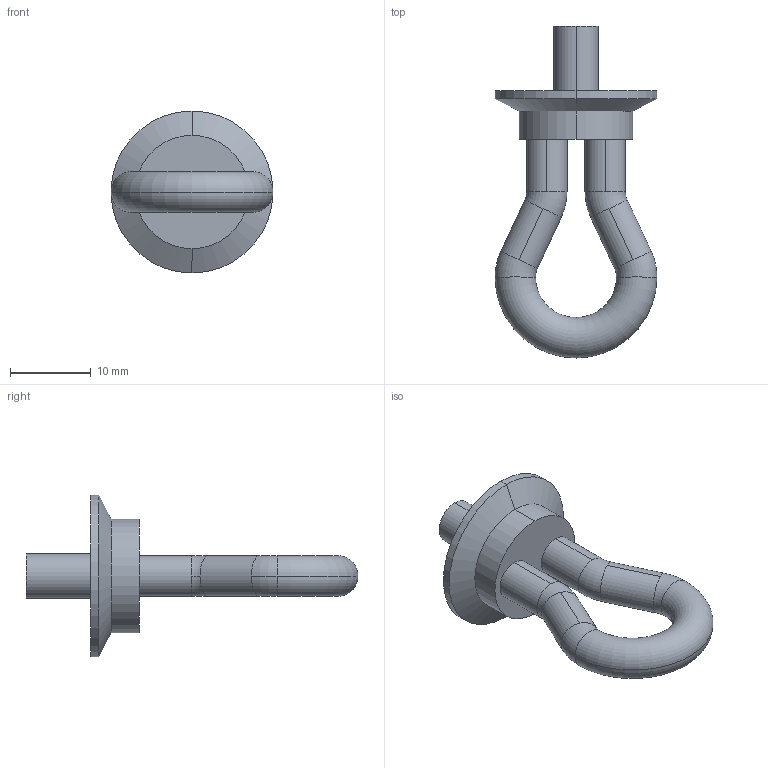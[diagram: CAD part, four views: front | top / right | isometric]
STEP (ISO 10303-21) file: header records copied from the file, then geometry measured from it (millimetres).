
FILE_DESCRIPTION( ( '' ), '1' );
FILE_NAME( 'C:/Documents and Settings/Nikhil/Desktop/Nik/Done/9113594.stp', '2013-10-23T12:28:10', ( '' ), ( '' ), ' ', ' ', ' ' );
FILE_SCHEMA( ( 'automotive_design' ) );
Length unit declared in the file: millimetre
Products named in the file (1): 1
Bounding box: 20 x 41 x 20 mm (x, y, z)
Volume: 2435.3 mm3; surface area: 2005.2 mm2
Topology: 1 solids, 1 shells, 32 faces, 78 edges, 50 vertices
Faces by surface type: cylinder 16, torus 10, plane 4, cone 2
Entity records: 1898 total; most frequent: DIRECTION 204, STYLED_ITEM 161, PRESENTATION_STYLE_ASSIGNMENT 161, CARTESIAN_POINT 161, COLOUR_RGB 161, ORIENTED_EDGE 156, AXIS2_PLACEMENT_3D 93, EDGE_CURVE 78
